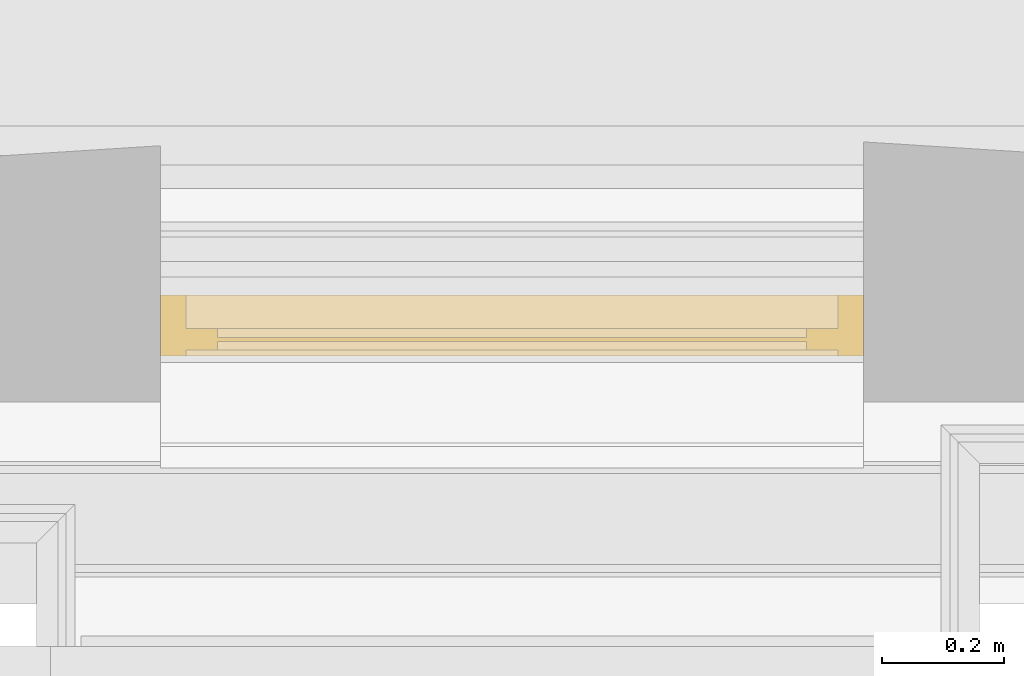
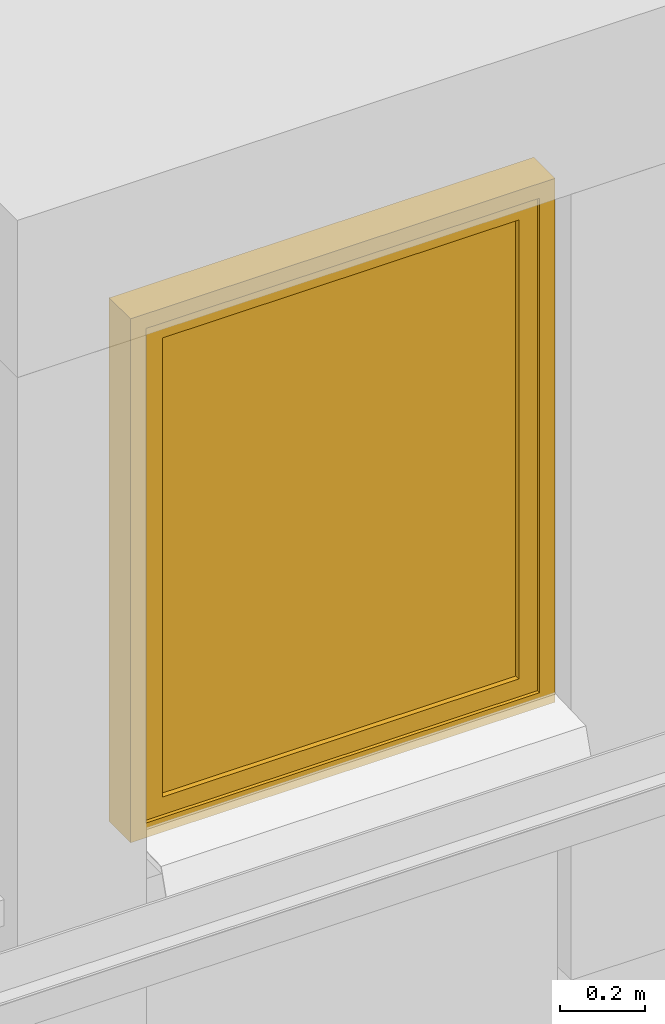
# One storey, part 136 of 183: 1 window.
"""IFC2X3 building model written with IfcOpenShell, lengths in metres."""

from ifc_helpers import new_model, entity, si_unit, converted_unit, derived_unit, money_unit, direction, frame, origin_with_axes, place, context, subcontext, project, spatial, faceted_brep, material, type_object, element, save


model = new_model("IFC2X3")

# Units and contexts
model_context = context("Model", 3, precision=1e-05, world=origin_with_axes(), true_north=direction((0.0, 1.0)))
body_context = subcontext(model_context, "Body", "Model", "MODEL_VIEW", scale=1.0)
ifc_project = project(units=[si_unit("LENGTHUNIT", "METRE"), si_unit("AREAUNIT", "SQUARE_METRE"), si_unit("VOLUMEUNIT", "CUBIC_METRE"), si_unit("ABSORBEDDOSEUNIT", "GRAY"), si_unit("AMOUNTOFSUBSTANCEUNIT", "MOLE"), si_unit("DOSEEQUIVALENTUNIT", "SIEVERT"), si_unit("ELECTRICCAPACITANCEUNIT", "FARAD"), si_unit("ELECTRICCHARGEUNIT", "COULOMB"), si_unit("ELECTRICCONDUCTANCEUNIT", "SIEMENS"), si_unit("ELECTRICCURRENTUNIT", "AMPERE"), si_unit("ELECTRICRESISTANCEUNIT", "OHM"), si_unit("ELECTRICVOLTAGEUNIT", "VOLT"), si_unit("ENERGYUNIT", "JOULE"), si_unit("FORCEUNIT", "NEWTON"), si_unit("FREQUENCYUNIT", "HERTZ"), si_unit("ILLUMINANCEUNIT", "LUX"), si_unit("INDUCTANCEUNIT", "HENRY"), si_unit("LUMINOUSFLUXUNIT", "LUMEN"), si_unit("LUMINOUSINTENSITYUNIT", "CANDELA"), si_unit("MAGNETICFLUXDENSITYUNIT", "TESLA"), si_unit("MAGNETICFLUXUNIT", "WEBER"), si_unit("MASSUNIT", "GRAM"), converted_unit("PLANEANGLEUNIT", "degree", entity("IfcReal", 0.0174532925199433), si_unit("PLANEANGLEUNIT", "RADIAN"), dimensions=[0, 0, 0, 0, 0, 0, 0]), si_unit("POWERUNIT", "WATT"), si_unit("PRESSUREUNIT", "PASCAL"), si_unit("RADIOACTIVITYUNIT", "BECQUEREL"), si_unit("SOLIDANGLEUNIT", "STERADIAN"), si_unit("THERMODYNAMICTEMPERATUREUNIT", "KELVIN"), si_unit("TIMEUNIT", "SECOND"), derived_unit("ACCELERATIONUNIT", [(si_unit("LENGTHUNIT", "METRE"), 1), (si_unit("TIMEUNIT", "SECOND"), -2)]), derived_unit("ANGULARVELOCITYUNIT", [(converted_unit("PLANEANGLEUNIT", "degree", entity("IfcReal", 0.0174532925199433), si_unit("PLANEANGLEUNIT", "RADIAN"), dimensions=[0, 0, 0, 0, 0, 0, 0]), 1), (si_unit("TIMEUNIT", "SECOND"), -1)]), derived_unit("CURVATUREUNIT", [(converted_unit("PLANEANGLEUNIT", "degree", entity("IfcReal", 0.0174532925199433), si_unit("PLANEANGLEUNIT", "RADIAN"), dimensions=[0, 0, 0, 0, 0, 0, 0]), 1), (si_unit("LENGTHUNIT", "METRE"), -1)]), derived_unit("DYNAMICVISCOSITYUNIT", [(si_unit("PRESSUREUNIT", "PASCAL"), 1), (si_unit("TIMEUNIT", "SECOND"), 1)]), derived_unit("HEATFLUXDENSITYUNIT", [(si_unit("POWERUNIT", "WATT"), 1), (si_unit("LENGTHUNIT", "METRE"), -2)]), derived_unit("HEATINGVALUEUNIT", [(si_unit("ENERGYUNIT", "JOULE"), 1), (si_unit("MASSUNIT", "GRAM"), -1)]), derived_unit("INTEGERCOUNTRATEUNIT", [(si_unit("TIMEUNIT", "SECOND"), -1)]), derived_unit("IONCONCENTRATIONUNIT", [(si_unit("MASSUNIT", "GRAM"), 1), (si_unit("VOLUMEUNIT", "CUBIC_METRE"), -1)]), derived_unit("ISOTHERMALMOISTURECAPACITYUNIT", [(si_unit("VOLUMEUNIT", "CUBIC_METRE"), 1), (si_unit("MASSUNIT", "GRAM"), -1)]), derived_unit("KINEMATICVISCOSITYUNIT", [(si_unit("AREAUNIT", "SQUARE_METRE"), 1), (si_unit("TIMEUNIT", "SECOND"), -1)]), derived_unit("LINEARFORCEUNIT", [(si_unit("FORCEUNIT", "NEWTON"), 1), (si_unit("LENGTHUNIT", "METRE"), -1)]), derived_unit("LINEARMOMENTUNIT", [(si_unit("FORCEUNIT", "NEWTON"), 1), (si_unit("LENGTHUNIT", "METRE"), -1)]), derived_unit("LINEARSTIFFNESSUNIT", [(si_unit("FORCEUNIT", "NEWTON"), 1), (si_unit("LENGTHUNIT", "METRE"), -1)]), derived_unit("LINEARVELOCITYUNIT", [(si_unit("LENGTHUNIT", "METRE"), 1), (si_unit("TIMEUNIT", "SECOND"), -1)]), derived_unit("LUMINOUSINTENSITYDISTRIBUTIONUNIT", [(si_unit("LUMINOUSINTENSITYUNIT", "CANDELA"), 1), (si_unit("LUMINOUSFLUXUNIT", "LUMEN"), -1)]), derived_unit("MASSDENSITYUNIT", [(si_unit("MASSUNIT", "GRAM"), 1), (si_unit("VOLUMEUNIT", "CUBIC_METRE"), -1)]), derived_unit("MASSFLOWRATEUNIT", [(si_unit("MASSUNIT", "GRAM"), 1), (si_unit("TIMEUNIT", "SECOND"), -1)]), derived_unit("MASSPERLENGTHUNIT", [(si_unit("MASSUNIT", "GRAM"), 1), (si_unit("LENGTHUNIT", "METRE"), -1)]), derived_unit("MODULUSOFELASTICITYUNIT", [(si_unit("FORCEUNIT", "NEWTON"), 1), (si_unit("AREAUNIT", "SQUARE_METRE"), -1)]), derived_unit("MODULUSOFLINEARSUBGRADEREACTIONUNIT", [(si_unit("FORCEUNIT", "NEWTON"), 1), (si_unit("LENGTHUNIT", "METRE"), -2)]), derived_unit("MODULUSOFROTATIONALSUBGRADEREACTIONUNIT", [(si_unit("FORCEUNIT", "NEWTON"), 1), (si_unit("LENGTHUNIT", "METRE"), 1)]), derived_unit("MODULUSOFSUBGRADEREACTIONUNIT", [(si_unit("FORCEUNIT", "NEWTON"), 1), (si_unit("VOLUMEUNIT", "CUBIC_METRE"), -1)]), derived_unit("MOISTUREDIFFUSIVITYUNIT", [(si_unit("VOLUMEUNIT", "CUBIC_METRE"), 1), (si_unit("TIMEUNIT", "SECOND"), -1)]), derived_unit("MOLECULARWEIGHTUNIT", [(si_unit("MASSUNIT", "GRAM"), 1), (si_unit("AMOUNTOFSUBSTANCEUNIT", "MOLE"), -1)]), derived_unit("PLANARFORCEUNIT", [(si_unit("FORCEUNIT", "NEWTON"), 1), (si_unit("LENGTHUNIT", "METRE"), -2)]), derived_unit("ROTATIONALFREQUENCYUNIT", [(si_unit("TIMEUNIT", "SECOND"), -1)]), derived_unit("ROTATIONALMASSUNIT", [(si_unit("MASSUNIT", "GRAM"), 1), (si_unit("LENGTHUNIT", "METRE"), 2)]), derived_unit("ROTATIONALSTIFFNESSUNIT", [(si_unit("FORCEUNIT", "NEWTON"), 1), (si_unit("LENGTHUNIT", "METRE"), 1), (converted_unit("PLANEANGLEUNIT", "degree", entity("IfcReal", 0.0174532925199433), si_unit("PLANEANGLEUNIT", "RADIAN"), dimensions=[0, 0, 0, 0, 0, 0, 0]), -1)]), derived_unit("SECTIONAREAINTEGRALUNIT", [(si_unit("LENGTHUNIT", "METRE"), 5)]), derived_unit("SECTIONMODULUSUNIT", [(si_unit("LENGTHUNIT", "METRE"), 3)]), derived_unit("SHEARMODULUSUNIT", [(si_unit("FORCEUNIT", "NEWTON"), 1), (si_unit("AREAUNIT", "SQUARE_METRE"), -1)]), derived_unit("SOUNDPOWERUNIT", [(si_unit("ENERGYUNIT", "JOULE"), 1), (si_unit("TIMEUNIT", "SECOND"), -1)]), derived_unit("SPECIFICHEATCAPACITYUNIT", [(si_unit("FORCEUNIT", "NEWTON"), 1), (si_unit("MASSUNIT", "GRAM"), -1), (si_unit("THERMODYNAMICTEMPERATUREUNIT", "KELVIN"), -1)]), derived_unit("TEMPERATUREGRADIENTUNIT", [(si_unit("THERMODYNAMICTEMPERATUREUNIT", "KELVIN"), 1), (si_unit("LENGTHUNIT", "METRE"), -1)]), derived_unit("THERMALADMITTANCEUNIT", [(si_unit("POWERUNIT", "WATT"), 1), (si_unit("AREAUNIT", "SQUARE_METRE"), -1), (si_unit("THERMODYNAMICTEMPERATUREUNIT", "KELVIN"), -1)]), derived_unit("THERMALCONDUCTANCEUNIT", [(si_unit("POWERUNIT", "WATT"), 1), (si_unit("LENGTHUNIT", "METRE"), -1), (si_unit("THERMODYNAMICTEMPERATUREUNIT", "KELVIN"), -1)]), derived_unit("THERMALEXPANSIONCOEFFICIENTUNIT", [(si_unit("THERMODYNAMICTEMPERATUREUNIT", "KELVIN"), -1)]), derived_unit("THERMALRESISTANCEUNIT", [(si_unit("AREAUNIT", "SQUARE_METRE"), 1), (si_unit("POWERUNIT", "WATT"), -1)]), derived_unit("THERMALTRANSMITTANCEUNIT", [(si_unit("POWERUNIT", "WATT"), 1), (si_unit("AREAUNIT", "SQUARE_METRE"), -1), (si_unit("THERMODYNAMICTEMPERATUREUNIT", "KELVIN"), -1)]), derived_unit("TORQUEUNIT", [(si_unit("FORCEUNIT", "NEWTON"), 1), (si_unit("LENGTHUNIT", "METRE"), 1)]), derived_unit("VAPORPERMEABILITYUNIT", [(si_unit("MASSUNIT", "GRAM"), 1), (si_unit("TIMEUNIT", "SECOND"), -1)]), derived_unit("VOLUMETRICFLOWRATEUNIT", [(si_unit("VOLUMEUNIT", "CUBIC_METRE"), 1), (si_unit("TIMEUNIT", "SECOND"), -1)]), derived_unit("WARPINGCONSTANTUNIT", [(si_unit("LENGTHUNIT", "METRE"), 6)]), derived_unit("WARPINGMOMENTUNIT", [(si_unit("FORCEUNIT", "NEWTON"), 1), (si_unit("LENGTHUNIT", "METRE"), 2)]), money_unit("GBP")], contexts=[model_context])

# Site, building, storey, space
site_placement = place(None, origin_with_axes())
site = spatial("IfcSite", under=ifc_project, at=site_placement, Name="Site", CompositionType="ELEMENT")
building_placement = place(site_placement, origin_with_axes())
building = spatial("IfcBuilding", under=site, at=building_placement, Name="Building01", CompositionType="ELEMENT")
storey_placement = place(building_placement, frame((0.0, 0.0, 5.15), z_axis=(0.0, 0.0, 1.0), x_axis=(1.0, 0.0, 0.0)))
storey = spatial("IfcBuildingStorey", under=building, at=storey_placement, Name="1F", CompositionType="ELEMENT", Elevation=5.15)
space_placement = place(storey_placement, frame((15.77, 4.717, 9.81), z_axis=(0.0, 0.0, 1.0), x_axis=(0.0, -1.0, 0.0)))
space = spatial("IfcSpace", under=storey, at=space_placement, Name="1", CompositionType="ELEMENT", InteriorOrExteriorSpace="NOTDEFINED")

# Window
ifc_material = material(Name="A_BSUK_Windows")
window_style = type_object("IfcWindowStyle", Name="A-Awning", ConstructionType="NOTDEFINED", OperationType="USERDEFINED", ParameterTakesPrecedence=False, Sizeable=False)
window_placement = place(storey_placement, frame((17.360024, 0.549939, 10.78), z_axis=(0.0, 0.0, 1.0), x_axis=(1.0, 0.0, 0.0)))
element("IfcWindow", 1, at=window_placement, inside=space, type_object=window_style, material=ifc_material, Name="4.07", ObjectType="A-Awning", OverallHeight=1.50000000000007, OverallWidth=1.15000000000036, context=body_context, shape_type="Brep", body=[
    faceted_brep([(-1.108, 0.0254, 0.042), (-0.042, 0.0254, 0.042), (-0.042, 0.1254, 0.042), (-1.108, 0.1254, 0.042), (-1.108, 0.0254, 1.458), (-1.108, 0.1254, 1.458), (-0.042, 0.0254, 1.458), (-0.042, 0.1254, 1.458), (0.0, 0.0254, 0.0), (0.0, 0.0254, 1.5), (-1.15, 0.0254, 1.5), (-1.15, 0.0254, 0.0), (0.0, 0.1254, 1.5), (-1.15, 0.1254, 1.5), (-1.15, 0.1254, 0.0), (0.0, 0.1254, 0.0)], [[[0, 1, 2, 3]], [[4, 0, 3, 5]], [[6, 4, 5, 7]], [[8, 9, 10, 11], [4, 6, 1, 0]], [[1, 6, 7, 2]], [[12, 13, 10, 9]], [[14, 15, 8, 11]], [[13, 14, 11, 10]], [[13, 12, 15, 14], [2, 7, 5, 3]], [[15, 12, 9, 8]]]),
    faceted_brep([(-1.0572, 0.0354, 0.0928), (-0.0928, 0.0354, 0.0928), (-0.0928, 0.0704, 0.0928), (-1.0572, 0.0704, 0.0928), (-1.0572, 0.0354, 1.4072), (-1.0572, 0.0704, 1.4072), (-0.0928, 0.0354, 1.4072), (-0.0928, 0.0704, 1.4072), (-1.108, 0.0704, 1.458), (-0.042, 0.0704, 1.458), (-0.042, 0.0704, 0.042), (-1.108, 0.0704, 0.042), (-1.108, 0.0354, 1.458), (-0.042, 0.0354, 1.458), (-0.042, 0.0354, 0.042), (-1.108, 0.0354, 0.042)], [[[0, 1, 2, 3]], [[4, 0, 3, 5]], [[6, 4, 5, 7]], [[8, 9, 10, 11], [2, 7, 5, 3]], [[9, 8, 12, 13]], [[10, 9, 13, 14]], [[11, 10, 14, 15]], [[8, 11, 15, 12]], [[14, 13, 12, 15], [4, 6, 1, 0]], [[1, 6, 7, 2]]]),
    faceted_brep([(-0.0928, 0.049725, 0.0928), (-0.0928, 0.056075, 0.0928), (-0.0928, 0.056075, 1.4072), (-0.0928, 0.049725, 1.4072), (-1.0572, 0.049725, 1.4072), (-1.0572, 0.056075, 1.4072), (-1.0572, 0.056075, 0.0928), (-1.0572, 0.049725, 0.0928)], [[[0, 1, 2, 3]], [[4, 5, 6, 7]], [[3, 2, 5, 4]], [[3, 4, 7, 0]], [[7, 6, 1, 0]], [[1, 6, 5, 2]]]),
])

save(model, "model.ifc")
